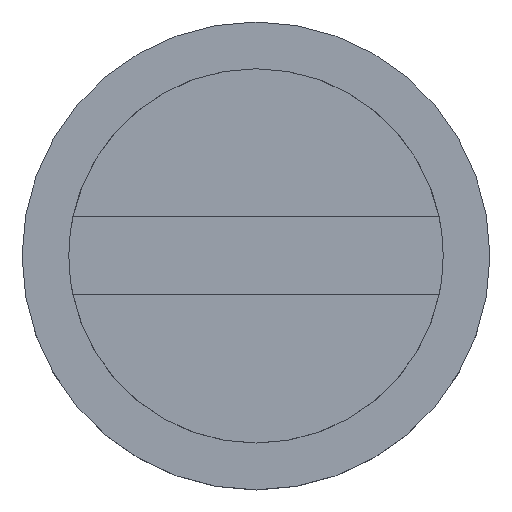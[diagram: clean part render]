
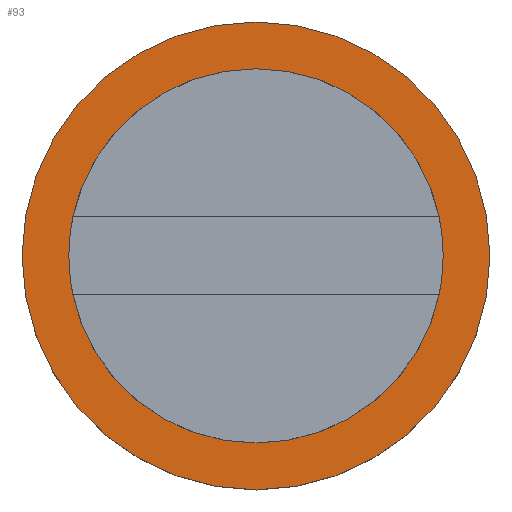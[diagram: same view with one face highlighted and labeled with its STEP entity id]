
A CAD part, top view. The second image highlights one B-rep face of the part: STEP entity #93.
In plain terms, the highlighted planar face has unit normal (0, 0, 1).
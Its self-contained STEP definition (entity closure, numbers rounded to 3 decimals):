
#93=ADVANCED_FACE('',(#133,#134),#135,.T.);
#133=FACE_BOUND('',#174,.T.);
#134=FACE_OUTER_BOUND('',#175,.T.);
#135=PLANE('',#176);
#174=EDGE_LOOP('',(#311,#312));
#175=EDGE_LOOP('',(#313,#314));
#176=AXIS2_PLACEMENT_3D('',#315,#316,#317);
#311=ORIENTED_EDGE('',*,*,#351,.T.);
#312=ORIENTED_EDGE('',*,*,#342,.T.);
#313=ORIENTED_EDGE('',*,*,#321,.T.);
#314=ORIENTED_EDGE('',*,*,#358,.T.);
#315=CARTESIAN_POINT('',(0.0,0.0,-0.5));
#316=DIRECTION('',(0.0,0.0,1.0));
#317=DIRECTION('',(1.0,0.0,0.0));
#321=EDGE_CURVE('',#361,#365,#367,.T.);
#342=EDGE_CURVE('',#394,#406,#408,.T.);
#351=EDGE_CURVE('',#406,#394,#421,.T.);
#358=EDGE_CURVE('',#365,#361,#428,.T.);
#361=VERTEX_POINT('',#431);
#365=VERTEX_POINT('',#436);
#367=CIRCLE('',#439,6.0);
#394=VERTEX_POINT('',#472);
#406=VERTEX_POINT('',#487);
#408=CIRCLE('',#490,4.8);
#421=CIRCLE('',#509,4.8);
#428=CIRCLE('',#516,6.0);
#431=CARTESIAN_POINT('',(6.0,0.0,-0.5));
#436=CARTESIAN_POINT('',(-6.0,0.,-0.5));
#439=AXIS2_PLACEMENT_3D('',#523,#524,#525);
#472=CARTESIAN_POINT('',(4.8,0.,-0.5));
#487=CARTESIAN_POINT('',(-4.8,0.,-0.5));
#490=AXIS2_PLACEMENT_3D('',#566,#567,#568);
#509=AXIS2_PLACEMENT_3D('',#581,#582,#583);
#516=AXIS2_PLACEMENT_3D('',#602,#603,#604);
#523=CARTESIAN_POINT('',(0.0,0.0,-0.5));
#524=DIRECTION('',(0.0,0.0,1.0));
#525=DIRECTION('',(1.0,0.0,0.0));
#566=CARTESIAN_POINT('',(0.0,0.0,-0.5));
#567=DIRECTION('',(0.0,0.0,-1.0));
#568=DIRECTION('',(1.0,0.0,0.0));
#581=CARTESIAN_POINT('',(0.0,0.0,-0.5));
#582=DIRECTION('',(0.0,0.0,-1.0));
#583=DIRECTION('',(1.0,0.0,0.0));
#602=CARTESIAN_POINT('',(0.0,0.0,-0.5));
#603=DIRECTION('',(0.0,0.0,1.0));
#604=DIRECTION('',(1.0,0.0,0.0));
